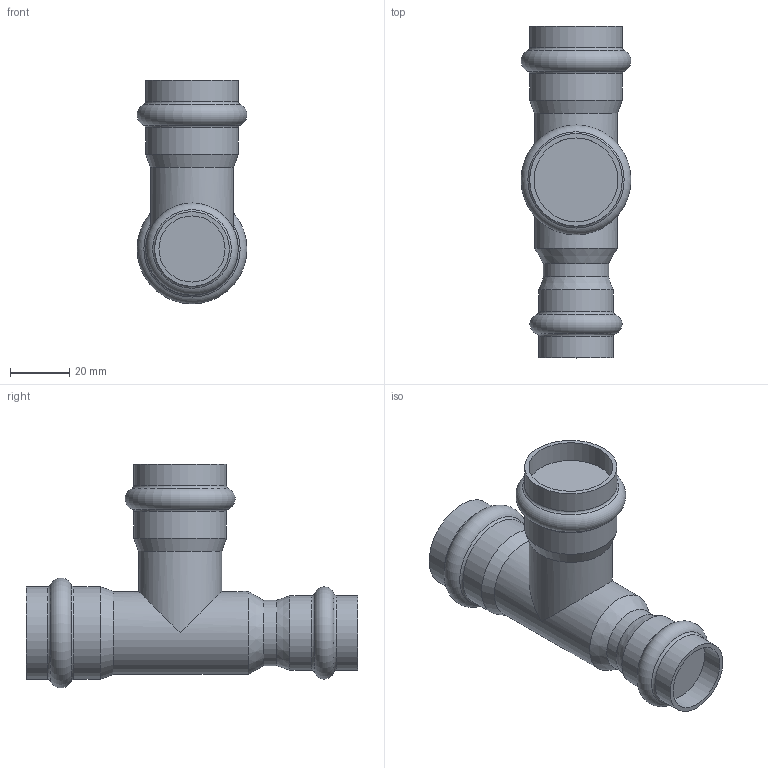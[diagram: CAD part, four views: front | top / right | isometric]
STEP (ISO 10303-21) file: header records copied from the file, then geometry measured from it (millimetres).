
FILE_DESCRIPTION(('STEP AP203'), '1');
FILE_NAME('覆.302669.142.000 捘 - VTi.931.I.282822', '', ('UNSPECIFIED'), ('UNSPECIFIED'), 'C3D Converter', 'C3D Toolkit', '');
FILE_SCHEMA(('CONFIG_CONTROL_DESIGN'));
Length unit declared in the file: millimetre
Bounding box: 37.09 x 112 x 75.55 mm (x, y, z)
Volume: 92647.8 mm3; surface area: 18461.7 mm2
Topology: 1 solids, 1 shells, 31 faces, 58 edges, 33 vertices
Faces by surface type: cylinder 12, torus 9, plane 6, cone 4
Full cylindrical faces by diameter (mm): 22 x1, 22.3 x1, 25.2 x2, 28 x2, 28.3 x2, 31.26 x4
Entity records: 681 total; most frequent: DIRECTION 124, CARTESIAN_POINT 107, ORIENTED_EDGE 66, AXIS2_PLACEMENT_3D 62, EDGE_LOOP 60, FACE_OUTER_BOUND 47, EDGE_CURVE 33, VERTEX_POINT 33
